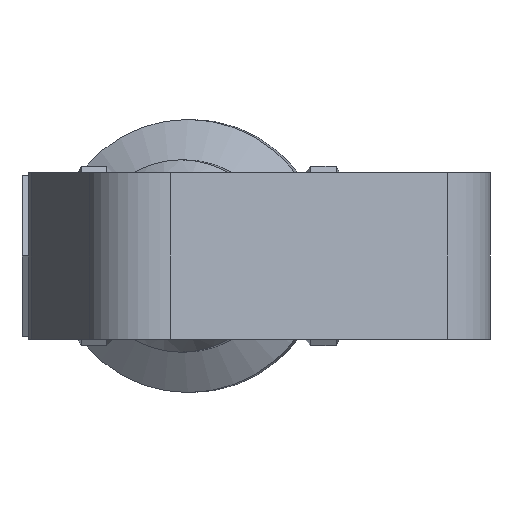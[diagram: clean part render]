
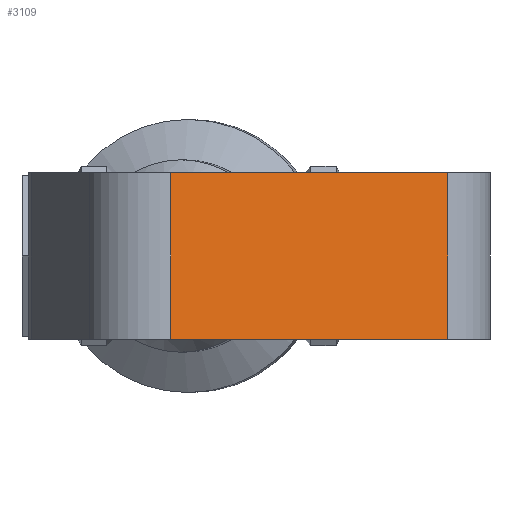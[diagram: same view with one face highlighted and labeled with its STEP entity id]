
A CAD part, front view. The second image highlights one B-rep face of the part: STEP entity #3109.
In plain terms, the highlighted planar face has unit normal (0.342, -0.94, 0).
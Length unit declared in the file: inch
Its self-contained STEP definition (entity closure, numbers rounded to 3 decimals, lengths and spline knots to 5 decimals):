
#110=PLANE('',#3438);
#245=FACE_OUTER_BOUND('',#427,.T.);
#427=EDGE_LOOP('',(#2167,#2168,#2169,#2170));
#619=LINE('',#5056,#865);
#626=LINE('',#5091,#872);
#627=LINE('',#5094,#873);
#628=LINE('',#5095,#874);
#865=VECTOR('',#3896,0.3937);
#872=VECTOR('',#3935,0.3937);
#873=VECTOR('',#3938,0.3937);
#874=VECTOR('',#3939,0.3937);
#1328=VERTEX_POINT('',#5053);
#1329=VERTEX_POINT('',#5055);
#1341=VERTEX_POINT('',#5089);
#1342=VERTEX_POINT('',#5093);
#1647=EDGE_CURVE('',#1328,#1329,#619,.T.);
#1664=EDGE_CURVE('',#1341,#1328,#626,.T.);
#1665=EDGE_CURVE('',#1342,#1341,#627,.T.);
#1666=EDGE_CURVE('',#1342,#1329,#628,.T.);
#2167=ORIENTED_EDGE('',*,*,#1664,.F.);
#2168=ORIENTED_EDGE('',*,*,#1665,.F.);
#2169=ORIENTED_EDGE('',*,*,#1666,.T.);
#2170=ORIENTED_EDGE('',*,*,#1647,.F.);
#3109=ADVANCED_FACE('',(#245),#110,.T.);
#3438=AXIS2_PLACEMENT_3D('',#5092,#3936,#3937);
#3896=DIRECTION('',(-0.94,-0.342,0.));
#3935=DIRECTION('',(0.,0.,-1.));
#3936=DIRECTION('center_axis',(0.342,-0.94,0.));
#3937=DIRECTION('ref_axis',(0.94,0.342,0.));
#3938=DIRECTION('',(0.94,0.342,0.));
#3939=DIRECTION('',(0.,0.,-1.));
#5053=CARTESIAN_POINT('',(1.86538,-3.86272,-0.65));
#5055=CARTESIAN_POINT('',(-0.29723,-4.64985,-0.65));
#5056=CARTESIAN_POINT('',(1.86538,-3.86272,-0.65));
#5089=CARTESIAN_POINT('',(1.86538,-3.86272,0.65));
#5091=CARTESIAN_POINT('',(1.86538,-3.86272,0.));
#5092=CARTESIAN_POINT('Origin',(-0.29723,-4.64985,0.));
#5093=CARTESIAN_POINT('',(-0.29723,-4.64985,0.65));
#5094=CARTESIAN_POINT('',(1.86538,-3.86272,0.65));
#5095=CARTESIAN_POINT('',(-0.29723,-4.64985,0.));
